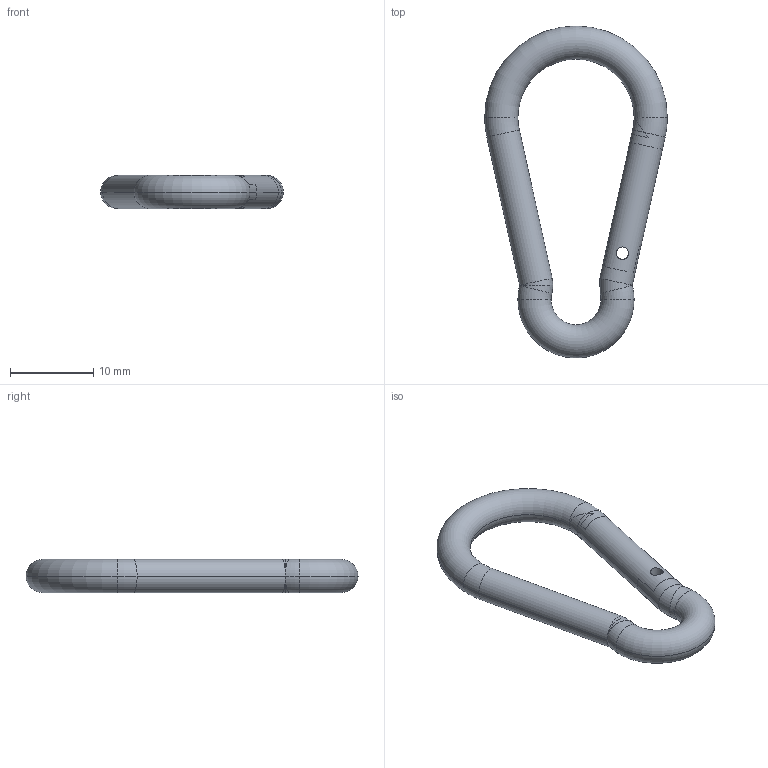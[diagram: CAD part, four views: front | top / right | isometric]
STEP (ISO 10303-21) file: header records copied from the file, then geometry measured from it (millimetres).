
FILE_DESCRIPTION (( 'STEP AP214' ), '1' );
FILE_NAME ('N900068_0_Karabiner.STEP', '2019-05-27T06:35:37', ( '' ), ( '' ), 'SwSTEP 2.0', 'SolidWorks 2017', '' );
FILE_SCHEMA (( 'AUTOMOTIVE_DESIGN' ));
Length unit declared in the file: millimetre
Products named in the file (3): N900068_0_Karabiner; Kopie von Karabiner Verschluss^N900068_Karabiner~0; Kopie von Karabiner Basis^N900068_Karabiner~0
Assembly tree (2 placements, depth 2):
  N900068_0_Karabiner
    Kopie von Karabiner Basis^N900068_Karabiner~0
    Kopie von Karabiner Verschluss^N900068_Karabiner~0
Bounding box: 22 x 40 x 4 mm (x, y, z)
Volume: 952.6 mm3; surface area: 1395.2 mm2
Topology: 2 solids, 2 shells, 55 faces, 136 edges, 79 vertices
Faces by surface type: plane 24, torus 17, cylinder 14
Entity records: 2270 total; most frequent: CARTESIAN_POINT 387, DIRECTION 303, ORIENTED_EDGE 260, EDGE_CURVE 130, AXIS2_PLACEMENT_3D 125, VERTEX_POINT 79, CIRCLE 65, EDGE_LOOP 61
